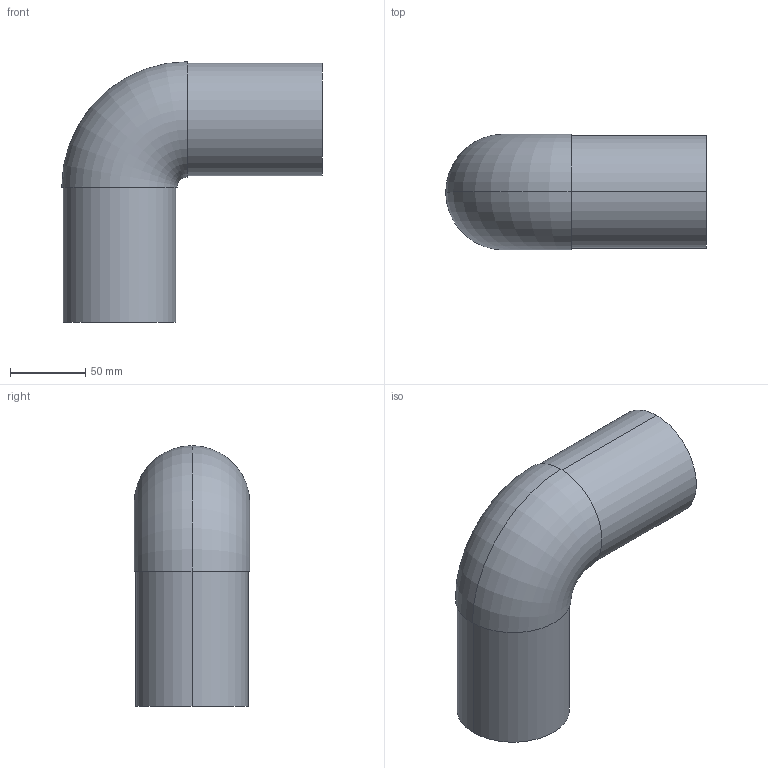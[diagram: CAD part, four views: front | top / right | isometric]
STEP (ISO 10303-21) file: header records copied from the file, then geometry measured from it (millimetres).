
FILE_DESCRIPTION (( 'STEP AP203' ), '1' );
FILE_NAME ('KP_3-75.step', '2011-08-08T11:40:15', ( '' ), ( '' ), 'SwSTEP 2.0', 'SolidWorks 2011', '' );
FILE_SCHEMA (( 'CONFIG_CONTROL_DESIGN' ));
Length unit declared in the file: millimetre
Products named in the file (1): KP_3-75
Bounding box: 173.5 x 77 x 173.5 mm (x, y, z)
Volume: 391752.1 mm3; surface area: 111019.6 mm2
Topology: 1 solids, 1 shells, 16 faces, 32 edges, 20 vertices
Faces by surface type: cylinder 8, torus 4, plane 4
Entity records: 509 total; most frequent: DIRECTION 90, CARTESIAN_POINT 69, ORIENTED_EDGE 64, AXIS2_PLACEMENT_3D 41, EDGE_CURVE 32, CIRCLE 24, VERTEX_POINT 20, EDGE_LOOP 20
